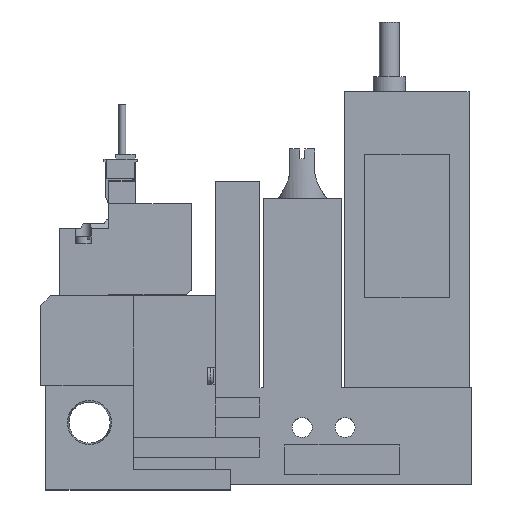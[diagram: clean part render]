
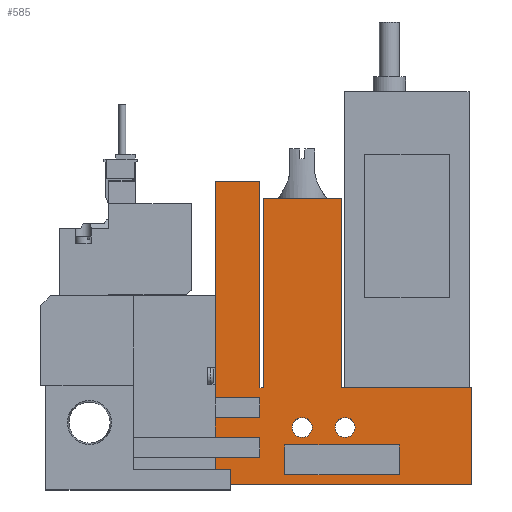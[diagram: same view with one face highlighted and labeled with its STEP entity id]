
A CAD part, top view. The second image highlights one B-rep face of the part: STEP entity #585.
In plain terms, the highlighted planar face has unit normal (0, 0, 1).
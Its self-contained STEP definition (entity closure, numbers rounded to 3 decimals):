
#585=ADVANCED_FACE('',(#1263,#1264,#1265,#1266),#1267,.T.);
#1263=FACE_OUTER_BOUND('',#2108,.T.);
#1264=FACE_BOUND('',#2109,.T.);
#1265=FACE_BOUND('',#2110,.T.);
#1266=FACE_BOUND('',#2111,.T.);
#1267=PLANE('',#2112);
#2108=EDGE_LOOP('',(#4532,#4533,#4534,#4535,#4536,#4537,#4538,#4539,#4540,#4541,#4542,#4543,#4544,#4545,#4546,#4547,#4548,#4549));
#2109=EDGE_LOOP('',(#4550,#4551,#4552,#4553));
#2110=EDGE_LOOP('',(#4554));
#2111=EDGE_LOOP('',(#4555));
#2112=AXIS2_PLACEMENT_3D('',#4556,#4557,#4558);
#4532=ORIENTED_EDGE('',*,*,#6120,.T.);
#4533=ORIENTED_EDGE('',*,*,#6122,.T.);
#4534=ORIENTED_EDGE('',*,*,#6089,.T.);
#4535=ORIENTED_EDGE('',*,*,#6123,.T.);
#4536=ORIENTED_EDGE('',*,*,#6124,.T.);
#4537=ORIENTED_EDGE('',*,*,#6125,.T.);
#4538=ORIENTED_EDGE('',*,*,#6126,.T.);
#4539=ORIENTED_EDGE('',*,*,#6127,.T.);
#4540=ORIENTED_EDGE('',*,*,#6128,.T.);
#4541=ORIENTED_EDGE('',*,*,#6129,.T.);
#4542=ORIENTED_EDGE('',*,*,#6130,.T.);
#4543=ORIENTED_EDGE('',*,*,#6131,.T.);
#4544=ORIENTED_EDGE('',*,*,#6132,.T.);
#4545=ORIENTED_EDGE('',*,*,#6133,.T.);
#4546=ORIENTED_EDGE('',*,*,#6134,.T.);
#4547=ORIENTED_EDGE('',*,*,#6135,.T.);
#4548=ORIENTED_EDGE('',*,*,#6136,.T.);
#4549=ORIENTED_EDGE('',*,*,#6137,.T.);
#4550=ORIENTED_EDGE('',*,*,#6138,.T.);
#4551=ORIENTED_EDGE('',*,*,#6139,.T.);
#4552=ORIENTED_EDGE('',*,*,#6140,.T.);
#4553=ORIENTED_EDGE('',*,*,#6141,.T.);
#4554=ORIENTED_EDGE('',*,*,#6142,.T.);
#4555=ORIENTED_EDGE('',*,*,#6143,.T.);
#4556=CARTESIAN_POINT('',(0.0,0.0,10.0));
#4557=DIRECTION('',(0.0,0.0,1.0));
#4558=DIRECTION('',(1.0,0.0,0.0));
#6089=EDGE_CURVE('',#7499,#7504,#7506,.T.);
#6120=EDGE_CURVE('',#7568,#7566,#7569,.T.);
#6122=EDGE_CURVE('',#7566,#7499,#7571,.T.);
#6123=EDGE_CURVE('',#7504,#7572,#7573,.T.);
#6124=EDGE_CURVE('',#7572,#7574,#7575,.T.);
#6125=EDGE_CURVE('',#7574,#7576,#7577,.T.);
#6126=EDGE_CURVE('',#7576,#7578,#7579,.T.);
#6127=EDGE_CURVE('',#7578,#7580,#7581,.T.);
#6128=EDGE_CURVE('',#7580,#7582,#7583,.T.);
#6129=EDGE_CURVE('',#7582,#7584,#7585,.T.);
#6130=EDGE_CURVE('',#7584,#7586,#7587,.T.);
#6131=EDGE_CURVE('',#7586,#7588,#7589,.T.);
#6132=EDGE_CURVE('',#7588,#7590,#7591,.T.);
#6133=EDGE_CURVE('',#7590,#7592,#7593,.T.);
#6134=EDGE_CURVE('',#7592,#7594,#7595,.T.);
#6135=EDGE_CURVE('',#7594,#7596,#7597,.T.);
#6136=EDGE_CURVE('',#7596,#7598,#7599,.T.);
#6137=EDGE_CURVE('',#7598,#7568,#7600,.T.);
#6138=EDGE_CURVE('',#7601,#7602,#7603,.T.);
#6139=EDGE_CURVE('',#7602,#7604,#7605,.T.);
#6140=EDGE_CURVE('',#7604,#7606,#7607,.T.);
#6141=EDGE_CURVE('',#7606,#7601,#7608,.T.);
#6142=EDGE_CURVE('',#7609,#7609,#7610,.T.);
#6143=EDGE_CURVE('',#7611,#7611,#7612,.T.);
#7499=VERTEX_POINT('',#9758);
#7504=VERTEX_POINT('',#9765);
#7506=LINE('',#9768,#9769);
#7566=VERTEX_POINT('',#9858);
#7568=VERTEX_POINT('',#9861);
#7569=LINE('',#9862,#9863);
#7571=LINE('',#9866,#9867);
#7572=VERTEX_POINT('',#9868);
#7573=LINE('',#9869,#9870);
#7574=VERTEX_POINT('',#9871);
#7575=LINE('',#9872,#9873);
#7576=VERTEX_POINT('',#9874);
#7577=LINE('',#9875,#9876);
#7578=VERTEX_POINT('',#9877);
#7579=LINE('',#9878,#9879);
#7580=VERTEX_POINT('',#9880);
#7581=LINE('',#9881,#9882);
#7582=VERTEX_POINT('',#9883);
#7583=LINE('',#9884,#9885);
#7584=VERTEX_POINT('',#9886);
#7585=LINE('',#9887,#9888);
#7586=VERTEX_POINT('',#9889);
#7587=LINE('',#9890,#9891);
#7588=VERTEX_POINT('',#9892);
#7589=LINE('',#9893,#9894);
#7590=VERTEX_POINT('',#9895);
#7591=LINE('',#9896,#9897);
#7592=VERTEX_POINT('',#9898);
#7593=LINE('',#9899,#9900);
#7594=VERTEX_POINT('',#9901);
#7595=LINE('',#9902,#9903);
#7596=VERTEX_POINT('',#9904);
#7597=LINE('',#9905,#9906);
#7598=VERTEX_POINT('',#9907);
#7599=LINE('',#9908,#9909);
#7600=LINE('',#9910,#9911);
#7601=VERTEX_POINT('',#9912);
#7602=VERTEX_POINT('',#9913);
#7603=LINE('',#9914,#9915);
#7604=VERTEX_POINT('',#9916);
#7605=LINE('',#9917,#9918);
#7606=VERTEX_POINT('',#9919);
#7607=LINE('',#9920,#9921);
#7608=LINE('',#9922,#9923);
#7609=VERTEX_POINT('',#9924);
#7610=CIRCLE('',#9925,2.0);
#7611=VERTEX_POINT('',#9926);
#7612=CIRCLE('',#9927,2.0);
#9758=CARTESIAN_POINT('',(44.1,17.5,10.0));
#9765=CARTESIAN_POINT('',(44.1,13.5,10.0));
#9768=CARTESIAN_POINT('',(44.1,0.0,10.0));
#9769=VECTOR('',#11347,1.0);
#9858=CARTESIAN_POINT('',(35.1,17.5,10.0));
#9861=CARTESIAN_POINT('',(35.1,61.0,10.0));
#9862=CARTESIAN_POINT('',(35.1,61.0,10.0));
#9863=VECTOR('',#11378,1.0);
#9866=CARTESIAN_POINT('',(0.0,17.5,10.0));
#9867=VECTOR('',#11380,1.0);
#9868=CARTESIAN_POINT('',(35.1,13.5,10.0));
#9869=CARTESIAN_POINT('',(0.0,13.5,10.0));
#9870=VECTOR('',#11381,1.0);
#9871=CARTESIAN_POINT('',(35.1,9.5,10.0));
#9872=CARTESIAN_POINT('',(35.1,0.0,10.0));
#9873=VECTOR('',#11382,1.0);
#9874=CARTESIAN_POINT('',(44.1,9.5,10.0));
#9875=CARTESIAN_POINT('',(0.0,9.5,10.0));
#9876=VECTOR('',#11383,1.0);
#9877=CARTESIAN_POINT('',(44.1,5.5,10.0));
#9878=CARTESIAN_POINT('',(44.1,0.0,10.0));
#9879=VECTOR('',#11384,1.0);
#9880=CARTESIAN_POINT('',(35.1,5.5,10.0));
#9881=CARTESIAN_POINT('',(0.0,5.5,10.0));
#9882=VECTOR('',#11385,1.0);
#9883=CARTESIAN_POINT('',(35.1,0.0,10.0));
#9884=CARTESIAN_POINT('',(35.1,0.0,10.0));
#9885=VECTOR('',#11386,1.0);
#9886=CARTESIAN_POINT('',(86.6,0.0,10.0));
#9887=CARTESIAN_POINT('',(18.6,0.0,10.0));
#9888=VECTOR('',#11387,1.0);
#9889=CARTESIAN_POINT('',(86.6,19.5,10.0));
#9890=CARTESIAN_POINT('',(86.6,0.0,10.0));
#9891=VECTOR('',#11388,1.0);
#9892=CARTESIAN_POINT('',(60.45,19.5,10.0));
#9893=CARTESIAN_POINT('',(86.6,19.5,10.0));
#9894=VECTOR('',#11389,1.0);
#9895=CARTESIAN_POINT('',(60.45,57.5,10.0));
#9896=CARTESIAN_POINT('',(60.45,19.5,10.0));
#9897=VECTOR('',#11390,1.0);
#9898=CARTESIAN_POINT('',(44.75,57.5,10.0));
#9899=CARTESIAN_POINT('',(60.45,57.5,10.0));
#9900=VECTOR('',#11391,1.0);
#9901=CARTESIAN_POINT('',(44.75,19.5,10.0));
#9902=CARTESIAN_POINT('',(44.75,57.5,10.0));
#9903=VECTOR('',#11392,1.0);
#9904=CARTESIAN_POINT('',(44.1,19.5,10.0));
#9905=CARTESIAN_POINT('',(44.75,19.5,10.0));
#9906=VECTOR('',#11393,1.0);
#9907=CARTESIAN_POINT('',(44.1,61.0,10.0));
#9908=CARTESIAN_POINT('',(44.1,19.5,10.0));
#9909=VECTOR('',#11394,1.0);
#9910=CARTESIAN_POINT('',(44.1,61.0,10.0));
#9911=VECTOR('',#11395,1.0);
#9912=CARTESIAN_POINT('',(49.1,2.0,10.0));
#9913=CARTESIAN_POINT('',(49.1,8.0,10.0));
#9914=CARTESIAN_POINT('',(49.1,0.0,10.0));
#9915=VECTOR('',#11396,1.0);
#9916=CARTESIAN_POINT('',(72.1,8.0,10.0));
#9917=CARTESIAN_POINT('',(0.0,8.0,10.0));
#9918=VECTOR('',#11397,1.0);
#9919=CARTESIAN_POINT('',(72.1,2.0,10.0));
#9920=CARTESIAN_POINT('',(72.1,0.0,10.0));
#9921=VECTOR('',#11398,1.0);
#9922=CARTESIAN_POINT('',(0.0,2.0,10.0));
#9923=VECTOR('',#11399,1.0);
#9924=CARTESIAN_POINT('',(54.6,11.5,10.0));
#9925=AXIS2_PLACEMENT_3D('',#11400,#11401,#11402);
#9926=CARTESIAN_POINT('',(63.2,11.5,10.0));
#9927=AXIS2_PLACEMENT_3D('',#11403,#11404,#11405);
#11347=DIRECTION('',(0.0,-1.0,0.0));
#11378=DIRECTION('',(0.0,-1.0,0.0));
#11380=DIRECTION('',(1.0,0.0,0.0));
#11381=DIRECTION('',(-1.0,0.0,0.0));
#11382=DIRECTION('',(0.0,-1.0,0.0));
#11383=DIRECTION('',(1.0,0.0,0.0));
#11384=DIRECTION('',(0.0,-1.0,0.0));
#11385=DIRECTION('',(-1.0,0.0,0.0));
#11386=DIRECTION('',(0.0,-1.0,0.0));
#11387=DIRECTION('',(1.0,0.0,0.0));
#11388=DIRECTION('',(0.0,1.0,0.0));
#11389=DIRECTION('',(-1.0,0.0,0.0));
#11390=DIRECTION('',(0.0,1.0,0.0));
#11391=DIRECTION('',(-1.0,0.0,0.0));
#11392=DIRECTION('',(0.0,-1.0,0.0));
#11393=DIRECTION('',(-1.0,0.0,0.0));
#11394=DIRECTION('',(0.0,1.0,0.0));
#11395=DIRECTION('',(-1.0,0.0,0.0));
#11396=DIRECTION('',(0.0,1.0,0.0));
#11397=DIRECTION('',(1.0,0.0,0.0));
#11398=DIRECTION('',(0.0,-1.0,0.0));
#11399=DIRECTION('',(-1.0,0.0,0.0));
#11400=CARTESIAN_POINT('',(52.6,11.5,10.0));
#11401=DIRECTION('',(0.0,0.0,-1.0));
#11402=DIRECTION('',(1.0,0.0,0.0));
#11403=CARTESIAN_POINT('',(61.2,11.5,10.0));
#11404=DIRECTION('',(0.0,0.0,-1.0));
#11405=DIRECTION('',(1.0,0.0,0.0));
